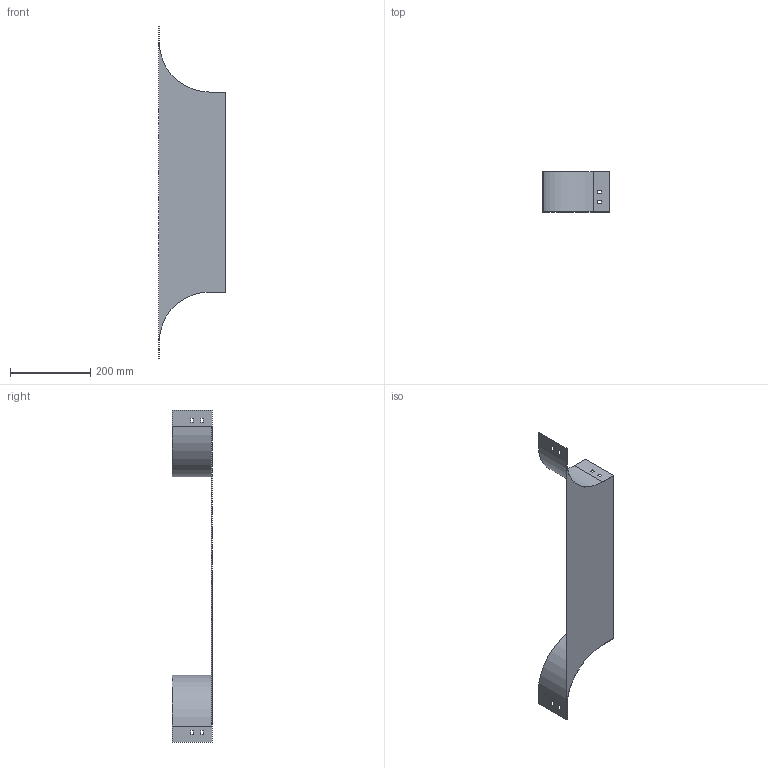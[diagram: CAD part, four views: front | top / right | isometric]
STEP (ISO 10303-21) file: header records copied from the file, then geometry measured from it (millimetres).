
FILE_DESCRIPTION (( 'STEP AP214' ), '1' );
FILE_NAME ('RL_501.step', '2025-07-16T09:25:40', ( '' ), ( '' ), 'SwSTEP 2.0', 'SolidWorks 2023', '' );
FILE_SCHEMA (( 'AUTOMOTIVE_DESIGN' ));
Length unit declared in the file: millimetre
Products named in the file (1): RL_501
Bounding box: 166.5 x 100 x 830 mm (x, y, z)
Volume: 216846.4 mm3; surface area: 292956.1 mm2
Topology: 1 solids, 1 shells, 50 faces, 144 edges, 96 vertices
Faces by surface type: plane 46, cylinder 4
Entity records: 1671 total; most frequent: CARTESIAN_POINT 291, ORIENTED_EDGE 288, DIRECTION 254, EDGE_CURVE 144, LINE 136, VECTOR 136, VERTEX_POINT 96, EDGE_LOOP 66
